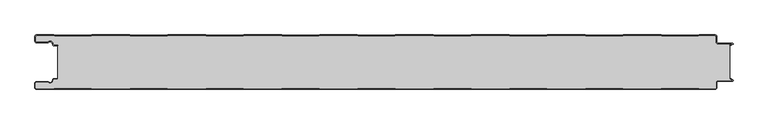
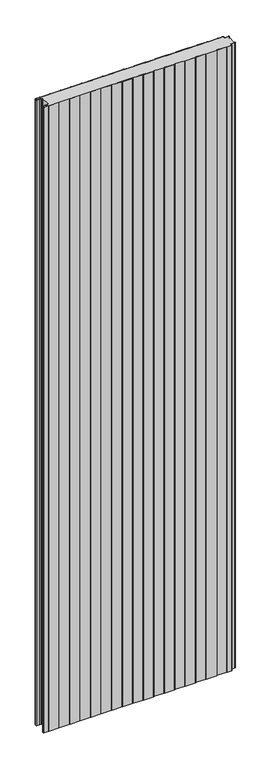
"""IFC4 building model written with IfcOpenShell, lengths in millimetres: plate geometry, ACH_Panel-Frigorífico_PUR-PIR : ACH_Panel-Frigorífico-PIR_80mm."""

from ifc_helpers import new_model, si_unit, point, frame_2d, origin, origin_with_axes, place, context, project, spatial, polyline, circle_curve, trimmed, segment, composite_curve, outline, extrude, source, transform, mapped, element, save


def plate_7081db1e(model_context):
    return source(origin(), model_context, "Body", "SweptSolid", [
        extrude(outline(composite_curve([segment(trimmed(circle_curve(frame_2d((-497.49499, -9.0180361)), 2.50501), [point((-497.49499, -11.5230461))], [point((-500.0, -9.0180361))], False, "CARTESIAN"), True, "CONTINUOUS"), segment(polyline([(-500.0, -9.0180361), (-500.0, -2.50501)]), True, "CONTINUOUS"), segment(trimmed(circle_curve(frame_2d((-497.49499, -2.50501)), 2.50501), [point((-500.0, -2.50501))], [point((-497.49499, 0.0))], False, "CARTESIAN"), True, "CONTINUOUS"), segment(polyline([(-497.49499, 0.0), (-472.2103007, 0.0), (-471.028188, -0.6012024), (-417.6391467, -0.6012024), (-416.457034, 0.0), (-360.8776353, 0.0), (-359.6955227, -0.6012024), (-306.3064814, -0.6012024), (-305.1243687, 0.0), (-249.54497, 0.0), (-248.3628573, -0.6012024), (-194.973816, -0.6012024), (-193.7917033, 0.0), (-138.2123047, 0.0), (-137.030192, -0.6012024), (-83.6411507, -0.6012024), (-82.459038, 0.0), (-26.8796393, 0.0), (-25.6975267, -0.6012024), (27.6915146, -0.6012024), (28.8736273, 0.0), (84.453026, 0.0), (85.6351387, -0.6012024), (139.02418, -0.6012024), (140.2062927, 0.0), (195.7856913, 0.0), (196.967804, -0.6012024), (250.3568453, -0.6012024), (251.538958, 0.0), (307.1183566, 0.0), (308.3004693, -0.6012024), (361.6895106, -0.6012024), (362.8716233, 0.0), (418.451022, 0.0), (419.6331347, -0.6012024), (473.022176, -0.6012024), (474.2042886, 0.0), (497.49499, 0.0)]), True, "CONTINUOUS"), segment(trimmed(circle_curve(frame_2d((497.49499, -2.50501)), 2.50501), [point((497.49499, 0.0))], [point((500.0, -2.50501))], False, "CARTESIAN"), True, "CONTINUOUS"), segment(polyline([(500.0, -2.50501), (500.0, -10.0200401)]), True, "CONTINUOUS"), segment(trimmed(circle_curve(frame_2d((502.004008, -10.0200401)), 2.004008), [point((500.0, -10.0200401))], [point((502.004008, -12.0240481))], True, "CARTESIAN"), True, "CONTINUOUS"), segment(polyline([(502.004008, -12.0240481), (523.0460922, -12.0240481)]), True, "CONTINUOUS"), segment(trimmed(circle_curve(frame_2d((523.0460922, -13.0260521)), 1.002004), [point((523.0460922, -12.0240481))], [point((523.5470942, -13.893813))], False, "CARTESIAN"), True, "CONTINUOUS"), segment(polyline([(523.5470942, -13.893813), (519.5390782, -16.2078422), (519.1390782, -15.5150218), (522.183956, -13.7570608)]), True, "CONTINUOUS"), segment(trimmed(circle_curve(frame_2d((521.933956, -13.3240481)), 0.5), [point((522.183956, -13.7570608))], [point((521.933956, -12.8240481))], True, "CARTESIAN"), True, "CONTINUOUS"), segment(polyline([(521.933956, -12.8240481), (502.004008, -12.8240481)]), True, "CONTINUOUS"), segment(trimmed(circle_curve(frame_2d((502.004008, -10.0200401)), 2.804008), [point((502.004008, -12.8240481))], [point((499.2, -10.0200401))], False, "CARTESIAN"), True, "CONTINUOUS"), segment(polyline([(499.2, -10.0200401), (499.2, -2.50501)]), True, "CONTINUOUS"), segment(trimmed(circle_curve(frame_2d((497.49499, -2.50501)), 1.70501), [point((499.2, -2.50501))], [point((497.49499, -0.8))], True, "CARTESIAN"), True, "CONTINUOUS"), segment(polyline([(497.49499, -0.8), (474.396035, -0.8), (473.2139223, -1.4012024), (419.4413883, -1.4012024), (418.2592756, -0.8), (363.0633697, -0.8), (361.881257, -1.4012024), (308.108723, -1.4012024), (306.9266103, -0.8), (251.7307044, -0.8), (250.5485917, -1.4012024), (196.7760576, -1.4012024), (195.5939449, -0.8), (140.398039, -0.8), (139.2159263, -1.4012024), (85.4433923, -1.4012024), (84.2612796, -0.8), (29.0653737, -0.8), (27.883261, -1.4012024), (-25.889273, -1.4012024), (-27.0713857, -0.8), (-82.2672916, -0.8), (-83.4494043, -1.4012024), (-137.2219384, -1.4012024), (-138.4040511, -0.8), (-193.599957, -0.8), (-194.7820696, -1.4012024), (-248.5546037, -1.4012024), (-249.7367164, -0.8), (-304.9326223, -0.8), (-306.114735, -1.4012024), (-359.887269, -1.4012024), (-361.0693817, -0.8), (-416.2652876, -0.8), (-417.4474003, -1.4012024), (-471.2199344, -1.4012024), (-472.4020471, -0.8), (-497.49499, -0.8)]), True, "CONTINUOUS"), segment(trimmed(circle_curve(frame_2d((-497.49499, -2.50501)), 1.70501), [point((-497.49499, -0.8))], [point((-499.2, -2.50501))], True, "CARTESIAN"), True, "CONTINUOUS"), segment(polyline([(-499.2, -2.50501), (-499.2, -9.0180361)]), True, "CONTINUOUS"), segment(trimmed(circle_curve(frame_2d((-497.49499, -9.0180361)), 1.70501), [point((-499.2, -9.0180361))], [point((-497.49499, -10.7230461))], True, "CARTESIAN"), True, "CONTINUOUS"), segment(polyline([(-497.49499, -10.7230461), (-481.8173283, -10.7230461)]), True, "CONTINUOUS"), segment(trimmed(circle_curve(frame_2d((-481.8173283, -9.0180361)), 1.70501), [point((-481.8173283, -10.7230461))], [point((-480.6895701, -10.2967936))], True, "CARTESIAN"), True, "CONTINUOUS"), segment(trimmed(circle_curve(frame_2d((-477.8407481, -13.5270541)), 4.307014), [point((-480.6895701, -10.2967936))], [point((-473.7934788, -12.0539686))], False, "CARTESIAN"), True, "CONTINUOUS"), segment(polyline([(-473.7934788, -12.0539686), (-473.0450711, -14.1102019)]), True, "CONTINUOUS"), segment(trimmed(circle_curve(frame_2d((-471.4428858, -13.5270541)), 1.70501), [point((-473.0450711, -14.1102019))], [point((-471.4428858, -15.2320641))], True, "CARTESIAN"), True, "CONTINUOUS"), segment(polyline([(-471.4428858, -15.2320641), (-466.4328657, -15.2320641), (-466.4328657, -16.0320641), (-471.4428858, -16.0320641)]), True, "CONTINUOUS"), segment(trimmed(circle_curve(frame_2d((-471.4428858, -13.5270541)), 2.50501), [point((-471.4428858, -16.0320641))], [point((-473.7968252, -14.383818))], False, "CARTESIAN"), True, "CONTINUOUS"), segment(polyline([(-473.7968252, -14.383818), (-474.5452329, -12.3275847)]), True, "CONTINUOUS"), segment(trimmed(circle_curve(frame_2d((-477.8407481, -13.5270541)), 3.507014), [point((-474.5452329, -12.3275847))], [point((-480.1604199, -10.8967936))], True, "CARTESIAN"), True, "CONTINUOUS"), segment(trimmed(circle_curve(frame_2d((-481.8173283, -9.0180361)), 2.50501), [point((-480.1604199, -10.8967936))], [point((-481.8173283, -11.5230461))], False, "CARTESIAN"), True, "CONTINUOUS"), segment(polyline([(-481.8173283, -11.5230461), (-497.49499, -11.5230461)]), True, "CONTINUOUS")], self_intersect=False)), origin_with_axes(), (0.0, 0.0, 1.0), 3500.0),
        extrude(outline(composite_curve([segment(trimmed(circle_curve(frame_2d((-471.4428858, -13.5270541)), 1.70501), [point((-471.4428858, -15.2320641))], [point((-473.0450711, -14.1102019))], False, "CARTESIAN"), True, "CONTINUOUS"), segment(polyline([(-473.0450711, -14.1102019), (-473.7934788, -12.0539686)]), True, "CONTINUOUS"), segment(trimmed(circle_curve(frame_2d((-477.8407481, -13.5270541)), 4.307014), [point((-473.7934788, -12.0539686))], [point((-480.6895701, -10.2967936))], True, "CARTESIAN"), True, "CONTINUOUS"), segment(trimmed(circle_curve(frame_2d((-481.8173283, -9.0180361)), 1.70501), [point((-480.6895701, -10.2967936))], [point((-481.8173283, -10.7230461))], False, "CARTESIAN"), True, "CONTINUOUS"), segment(polyline([(-481.8173283, -10.7230461), (-497.49499, -10.7230461)]), True, "CONTINUOUS"), segment(trimmed(circle_curve(frame_2d((-497.49499, -9.0180361)), 1.70501), [point((-497.49499, -10.7230461))], [point((-499.2, -9.0180361))], False, "CARTESIAN"), True, "CONTINUOUS"), segment(polyline([(-499.2, -9.0180361), (-499.2, -2.50501)]), True, "CONTINUOUS"), segment(trimmed(circle_curve(frame_2d((-497.49499, -2.50501)), 1.70501), [point((-499.2, -2.50501))], [point((-497.49499, -0.8))], False, "CARTESIAN"), True, "CONTINUOUS"), segment(polyline([(-497.49499, -0.8), (-472.4020471, -0.8), (-471.2199344, -1.4012024), (-417.4474003, -1.4012024), (-416.2652876, -0.8), (-361.0693817, -0.8), (-359.887269, -1.4012024), (-306.114735, -1.4012024), (-304.9326223, -0.8), (-249.7367164, -0.8), (-248.5546037, -1.4012024), (-194.7820696, -1.4012024), (-193.599957, -0.8), (-138.4040511, -0.8), (-137.2219384, -1.4012024), (-83.4494043, -1.4012024), (-82.2672916, -0.8), (-27.0713857, -0.8), (-25.889273, -1.4012024), (27.883261, -1.4012024), (29.0653737, -0.8), (84.2612796, -0.8), (85.4433923, -1.4012024), (139.2159263, -1.4012024), (140.398039, -0.8), (195.5939449, -0.8), (196.7760576, -1.4012024), (250.5485917, -1.4012024), (251.7307044, -0.8), (306.9266103, -0.8), (308.108723, -1.4012024), (361.881257, -1.4012024), (363.0633697, -0.8), (418.2592756, -0.8), (419.4413883, -1.4012024), (473.2139223, -1.4012024), (474.396035, -0.8), (497.49499, -0.8)]), True, "CONTINUOUS"), segment(trimmed(circle_curve(frame_2d((497.49499, -2.50501)), 1.70501), [point((497.49499, -0.8))], [point((499.2, -2.50501))], False, "CARTESIAN"), True, "CONTINUOUS"), segment(polyline([(499.2, -2.50501), (499.2, -10.0200401)]), True, "CONTINUOUS"), segment(trimmed(circle_curve(frame_2d((502.004008, -10.0200401)), 2.804008), [point((499.2, -10.0200401))], [point((502.004008, -12.8240481))], True, "CARTESIAN"), True, "CONTINUOUS"), segment(polyline([(502.004008, -12.8240481), (521.933956, -12.8240481)]), True, "CONTINUOUS"), segment(trimmed(circle_curve(frame_2d((521.933956, -13.3240481)), 0.5), [point((521.933956, -12.8240481))], [point((522.183956, -13.7570608))], False, "CARTESIAN"), True, "CONTINUOUS"), segment(polyline([(522.183956, -13.7570608), (519.1390782, -15.5150218), (519.1390782, -64.4849782), (522.183956, -66.2429392)]), True, "CONTINUOUS"), segment(trimmed(circle_curve(frame_2d((521.933956, -66.6759519)), 0.5), [point((522.183956, -66.2429392))], [point((521.933956, -67.1759519))], False, "CARTESIAN"), True, "CONTINUOUS"), segment(polyline([(521.933956, -67.1759519), (502.004008, -67.1759519)]), True, "CONTINUOUS"), segment(trimmed(circle_curve(frame_2d((502.004008, -69.9799599)), 2.804008), [point((502.004008, -67.1759519))], [point((499.2, -69.9799599))], True, "CARTESIAN"), True, "CONTINUOUS"), segment(polyline([(499.2, -69.9799599), (499.2, -77.49499)]), True, "CONTINUOUS"), segment(trimmed(circle_curve(frame_2d((497.49499, -77.49499)), 1.70501), [point((499.2, -77.49499))], [point((497.49499, -79.2))], False, "CARTESIAN"), True, "CONTINUOUS"), segment(polyline([(497.49499, -79.2), (474.396035, -79.2), (473.2139223, -78.5987976), (419.4413883, -78.5987976), (418.2592756, -79.2), (363.0633697, -79.2), (361.881257, -78.5987976), (308.108723, -78.5987976), (306.9266103, -79.2), (251.7307044, -79.2), (250.5485917, -78.5987976), (196.7760576, -78.5987976), (195.5939449, -79.2), (140.398039, -79.2), (139.2159263, -78.5987976), (85.4433923, -78.5987976), (84.2612796, -79.2), (29.0653737, -79.2), (27.883261, -78.5987976), (-25.889273, -78.5987976), (-27.0713857, -79.2), (-82.2672916, -79.2), (-83.4494043, -78.5987976), (-137.2219384, -78.5987976), (-138.4040511, -79.2), (-193.599957, -79.2), (-194.7820696, -78.5987976), (-248.5546037, -78.5987976), (-249.7367164, -79.2), (-304.9326223, -79.2), (-306.114735, -78.5987976), (-359.887269, -78.5987976), (-361.0693817, -79.2), (-416.2652876, -79.2), (-417.4474003, -78.5987976), (-471.2199344, -78.5987976), (-472.4020471, -79.2), (-497.49499, -79.2)]), True, "CONTINUOUS"), segment(trimmed(circle_curve(frame_2d((-497.49499, -77.49499)), 1.70501), [point((-497.49499, -79.2))], [point((-499.2, -77.49499))], False, "CARTESIAN"), True, "CONTINUOUS"), segment(polyline([(-499.2, -77.49499), (-499.2, -70.9819639)]), True, "CONTINUOUS"), segment(trimmed(circle_curve(frame_2d((-497.49499, -70.9819639)), 1.70501), [point((-499.2, -70.9819639))], [point((-497.49499, -69.2769539))], False, "CARTESIAN"), True, "CONTINUOUS"), segment(polyline([(-497.49499, -69.2769539), (-481.8173283, -69.2769539)]), True, "CONTINUOUS"), segment(trimmed(circle_curve(frame_2d((-481.8173283, -70.9819639)), 1.70501), [point((-481.8173283, -69.2769539))], [point((-480.6895701, -69.7032064))], False, "CARTESIAN"), True, "CONTINUOUS"), segment(trimmed(circle_curve(frame_2d((-477.8407481, -66.4729459)), 4.307014), [point((-480.6895701, -69.7032064))], [point((-473.7934788, -67.9460314))], True, "CARTESIAN"), True, "CONTINUOUS"), segment(polyline([(-473.7934788, -67.9460314), (-473.0450711, -65.8897981)]), True, "CONTINUOUS"), segment(trimmed(circle_curve(frame_2d((-471.4428858, -66.4729459)), 1.70501), [point((-473.0450711, -65.8897981))], [point((-471.4428858, -64.7679359))], False, "CARTESIAN"), True, "CONTINUOUS"), segment(polyline([(-471.4428858, -64.7679359), (-466.4328657, -64.7679359), (-466.4328657, -15.2320641), (-471.4428858, -15.2320641)]), True, "CONTINUOUS")], self_intersect=False)), origin_with_axes(), (0.0, 0.0, 1.0), 3500.0),
        extrude(outline(composite_curve([segment(polyline([(-497.49499, -68.4769539), (-481.8173283, -68.4769539)]), True, "CONTINUOUS"), segment(trimmed(circle_curve(frame_2d((-481.8173283, -70.9819639)), 2.50501), [point((-481.8173283, -68.4769539))], [point((-480.1604199, -69.1032064))], False, "CARTESIAN"), True, "CONTINUOUS"), segment(trimmed(circle_curve(frame_2d((-477.8407481, -66.4729459)), 3.507014), [point((-480.1604199, -69.1032064))], [point((-474.5452329, -67.6724153))], True, "CARTESIAN"), True, "CONTINUOUS"), segment(polyline([(-474.5452329, -67.6724153), (-473.7968252, -65.616182)]), True, "CONTINUOUS"), segment(trimmed(circle_curve(frame_2d((-471.4428858, -66.4729459)), 2.50501), [point((-473.7968252, -65.616182))], [point((-471.4428858, -63.9679359))], False, "CARTESIAN"), True, "CONTINUOUS"), segment(polyline([(-471.4428858, -63.9679359), (-466.4328657, -63.9679359), (-466.4328657, -64.7679359), (-471.4428858, -64.7679359)]), True, "CONTINUOUS"), segment(trimmed(circle_curve(frame_2d((-471.4428858, -66.4729459)), 1.70501), [point((-471.4428858, -64.7679359))], [point((-473.0450711, -65.8897981))], True, "CARTESIAN"), True, "CONTINUOUS"), segment(polyline([(-473.0450711, -65.8897981), (-473.7934788, -67.9460314)]), True, "CONTINUOUS"), segment(trimmed(circle_curve(frame_2d((-477.8407481, -66.4729459)), 4.307014), [point((-473.7934788, -67.9460314))], [point((-480.6895701, -69.7032064))], False, "CARTESIAN"), True, "CONTINUOUS"), segment(trimmed(circle_curve(frame_2d((-481.8173283, -70.9819639)), 1.70501), [point((-480.6895701, -69.7032064))], [point((-481.8173283, -69.2769539))], True, "CARTESIAN"), True, "CONTINUOUS"), segment(polyline([(-481.8173283, -69.2769539), (-497.49499, -69.2769539)]), True, "CONTINUOUS"), segment(trimmed(circle_curve(frame_2d((-497.49499, -70.9819639)), 1.70501), [point((-497.49499, -69.2769539))], [point((-499.2, -70.9819639))], True, "CARTESIAN"), True, "CONTINUOUS"), segment(polyline([(-499.2, -70.9819639), (-499.2, -77.49499)]), True, "CONTINUOUS"), segment(trimmed(circle_curve(frame_2d((-497.49499, -77.49499)), 1.70501), [point((-499.2, -77.49499))], [point((-497.49499, -79.2))], True, "CARTESIAN"), True, "CONTINUOUS"), segment(polyline([(-497.49499, -79.2), (-472.4020471, -79.2), (-471.2199344, -78.5987976), (-417.4474003, -78.5987976), (-416.2652876, -79.2), (-361.0693817, -79.2), (-359.887269, -78.5987976), (-306.114735, -78.5987976), (-304.9326223, -79.2), (-249.7367164, -79.2), (-248.5546037, -78.5987976), (-194.7820696, -78.5987976), (-193.599957, -79.2), (-138.4040511, -79.2), (-137.2219384, -78.5987976), (-83.4494043, -78.5987976), (-82.2672916, -79.2), (-27.0713857, -79.2), (-25.889273, -78.5987976), (27.883261, -78.5987976), (29.0653737, -79.2), (84.2612796, -79.2), (85.4433923, -78.5987976), (139.2159263, -78.5987976), (140.398039, -79.2), (195.5939449, -79.2), (196.7760576, -78.5987976), (250.5485917, -78.5987976), (251.7307044, -79.2), (306.9266103, -79.2), (308.108723, -78.5987976), (361.881257, -78.5987976), (363.0633697, -79.2), (418.2592756, -79.2), (419.4413883, -78.5987976), (473.2139223, -78.5987976), (474.396035, -79.2), (497.49499, -79.2)]), True, "CONTINUOUS"), segment(trimmed(circle_curve(frame_2d((497.49499, -77.49499)), 1.70501), [point((497.49499, -79.2))], [point((499.2, -77.49499))], True, "CARTESIAN"), True, "CONTINUOUS"), segment(polyline([(499.2, -77.49499), (499.2, -69.9799599)]), True, "CONTINUOUS"), segment(trimmed(circle_curve(frame_2d((502.004008, -69.9799599)), 2.804008), [point((499.2, -69.9799599))], [point((502.004008, -67.1759519))], False, "CARTESIAN"), True, "CONTINUOUS"), segment(polyline([(502.004008, -67.1759519), (521.933956, -67.1759519)]), True, "CONTINUOUS"), segment(trimmed(circle_curve(frame_2d((521.933956, -66.6759519)), 0.5), [point((521.933956, -67.1759519))], [point((522.183956, -66.2429392))], True, "CARTESIAN"), True, "CONTINUOUS"), segment(polyline([(522.183956, -66.2429392), (519.1390782, -64.4849782), (519.5390782, -63.7921578), (523.5470942, -66.106187)]), True, "CONTINUOUS"), segment(trimmed(circle_curve(frame_2d((523.0460922, -66.9739479)), 1.002004), [point((523.5470942, -66.106187))], [point((523.0460922, -67.9759519))], False, "CARTESIAN"), True, "CONTINUOUS"), segment(polyline([(523.0460922, -67.9759519), (502.004008, -67.9759519)]), True, "CONTINUOUS"), segment(trimmed(circle_curve(frame_2d((502.004008, -69.9799599)), 2.004008), [point((502.004008, -67.9759519))], [point((500.0, -69.9799599))], True, "CARTESIAN"), True, "CONTINUOUS"), segment(polyline([(500.0, -69.9799599), (500.0, -77.49499)]), True, "CONTINUOUS"), segment(trimmed(circle_curve(frame_2d((497.49499, -77.49499)), 2.50501), [point((500.0, -77.49499))], [point((497.49499, -80.0))], False, "CARTESIAN"), True, "CONTINUOUS"), segment(polyline([(497.49499, -80.0), (474.2042886, -80.0), (473.022176, -79.3987976), (419.6331347, -79.3987976), (418.451022, -80.0), (362.8716233, -80.0), (361.6895106, -79.3987976), (308.3004693, -79.3987976), (307.1183566, -80.0), (251.538958, -80.0), (250.3568453, -79.3987976), (196.967804, -79.3987976), (195.7856913, -80.0), (140.2062927, -80.0), (139.02418, -79.3987976), (85.6351387, -79.3987976), (84.453026, -80.0), (28.8736273, -80.0), (27.6915146, -79.3987976), (-25.6975267, -79.3987976), (-26.8796393, -80.0), (-82.459038, -80.0), (-83.6411507, -79.3987976), (-137.030192, -79.3987976), (-138.2123047, -80.0), (-193.7917033, -80.0), (-194.973816, -79.3987976), (-248.3628573, -79.3987976), (-249.54497, -80.0), (-305.1243687, -80.0), (-306.3064814, -79.3987976), (-359.6955227, -79.3987976), (-360.8776353, -80.0), (-416.457034, -80.0), (-417.6391467, -79.3987976), (-471.028188, -79.3987976), (-472.2103007, -80.0), (-497.49499, -80.0)]), True, "CONTINUOUS"), segment(trimmed(circle_curve(frame_2d((-497.49499, -77.49499)), 2.50501), [point((-497.49499, -80.0))], [point((-500.0, -77.49499))], False, "CARTESIAN"), True, "CONTINUOUS"), segment(polyline([(-500.0, -77.49499), (-500.0, -70.9819639)]), True, "CONTINUOUS"), segment(trimmed(circle_curve(frame_2d((-497.49499, -70.9819639)), 2.50501), [point((-500.0, -70.9819639))], [point((-497.49499, -68.4769539))], False, "CARTESIAN"), True, "CONTINUOUS")], self_intersect=False)), origin_with_axes(), (0.0, 0.0, 1.0), 3500.0),
    ])


if __name__ == "__main__":
    model = new_model("IFC4")
    model_context = context("Model", 3, world=origin())
    ifc_project = project(units=[si_unit("LENGTHUNIT", "METRE", prefix="MILLI")], contexts=[model_context])
    site = spatial("IfcSite", under=ifc_project)
    building = spatial("IfcBuilding", under=site)
    placement = place(None, origin())
    plate_shape = plate_7081db1e(model_context)
    element("IfcPlate", 1, ObjectType="ACH_Panel-Frigorífico_PUR-PIR : ACH_Panel-Frigorífico-PIR_80mm", at=placement, inside=building, context=model_context, shape_type="MappedRepresentation", body=[
        mapped(plate_shape, transform((0.0, 0.0, 0.0), x_axis=(1.0, 0.0, 0.0), y_axis=(0.0, 1.0, 0.0), z_axis=(0.0, 0.0, 1.0))),
    ])
    save(model, "model.ifc")
